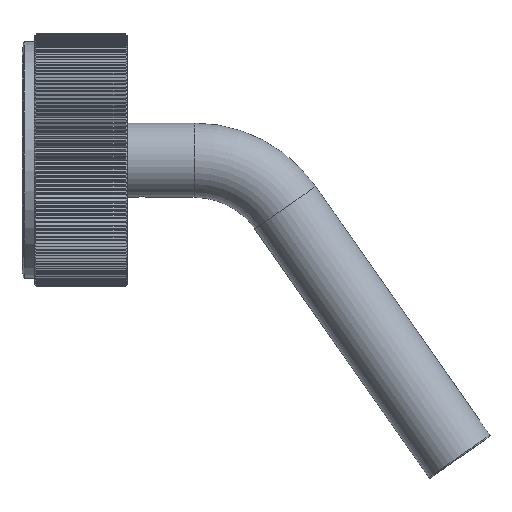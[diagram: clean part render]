
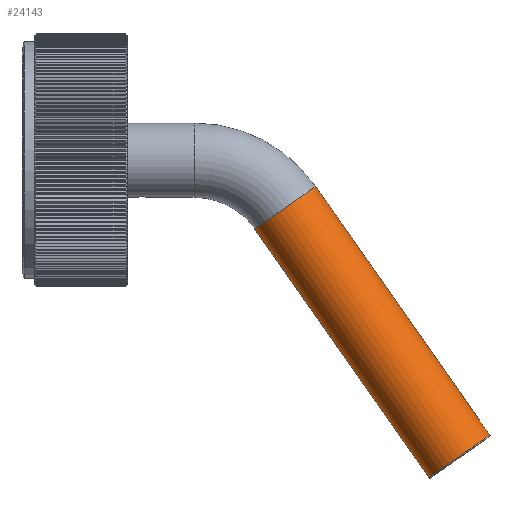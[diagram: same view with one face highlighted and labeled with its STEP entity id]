
A CAD part, front view. The second image highlights one B-rep face of the part: STEP entity #24143.
In plain terms, the highlighted cylindrical face has radius 10 mm (diameter 20 mm), a full revolution.
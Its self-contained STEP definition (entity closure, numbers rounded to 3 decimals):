
#558=CYLINDRICAL_SURFACE('',#25521,10.);
#4097=ORIENTED_EDGE('',*,*,#8910,.T.);
#4098=ORIENTED_EDGE('',*,*,#8909,.T.);
#8909=EDGE_CURVE('',#11367,#11367,#12749,.F.);
#8910=EDGE_CURVE('',#11368,#11368,#12750,.T.);
#11367=VERTEX_POINT('',#33090);
#11368=VERTEX_POINT('',#33093);
#12749=CIRCLE('',#25520,10.);
#12750=CIRCLE('',#25522,10.);
#13711=EDGE_LOOP('',(#4097));
#13712=EDGE_LOOP('',(#4098));
#15040=FACE_BOUND('',#13711,.T.);
#15041=FACE_BOUND('',#13712,.T.);
#24143=ADVANCED_FACE('',(#15040,#15041),#558,.T.);
#25520=AXIS2_PLACEMENT_3D('',#33089,#27988,#27989);
#25521=AXIS2_PLACEMENT_3D('',#33091,#27990,#27991);
#25522=AXIS2_PLACEMENT_3D('',#33092,#27992,#27993);
#27988=DIRECTION('',(0.819,-0.574,0.));
#27989=DIRECTION('',(-0.574,-0.819,0.));
#27990=DIRECTION('',(0.819,-0.574,0.));
#27991=DIRECTION('',(0.574,0.819,0.));
#27992=DIRECTION('',(0.819,-0.574,0.));
#27993=DIRECTION('',(0.574,0.819,0.));
#33089=CARTESIAN_POINT('',(-12.793,45.575,0.));
#33090=CARTESIAN_POINT('',(-18.528,37.383,0.));
#33091=CARTESIAN_POINT('',(-79.963,92.608,0.));
#33092=CARTESIAN_POINT('',(-79.717,92.436,0.));
#33093=CARTESIAN_POINT('',(-73.982,100.627,0.));
